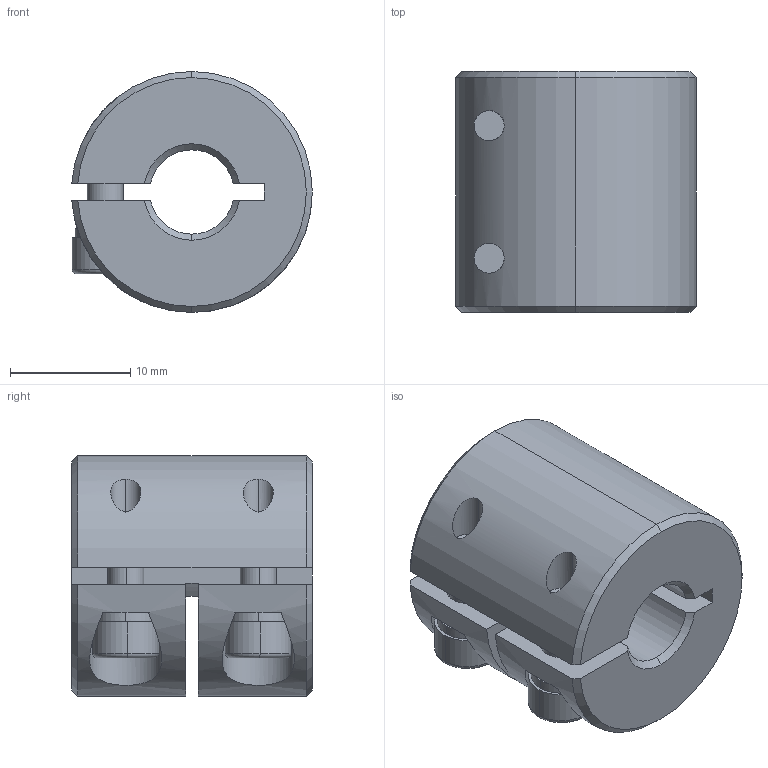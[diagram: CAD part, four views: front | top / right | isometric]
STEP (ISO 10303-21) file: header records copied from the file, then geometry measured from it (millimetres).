
FILE_DESCRIPTION (( 'STEP AP203' ), '1' );
FILE_NAME ('LL-B-D20L20-7-8.STEP', '2021-11-03T05:29:19', ( '' ), ( '' ), 'SwSTEP 2.0', 'SolidWorks 2018', '' );
FILE_SCHEMA (( 'CONFIG_CONTROL_DESIGN' ));
Length unit declared in the file: millimetre
Products named in the file (1): LL-B-D20L20-7-8
Bounding box: 19.98 x 20 x 20 mm (x, y, z)
Volume: 4936.1 mm3; surface area: 3116.1 mm2
Topology: 1 solids, 1 shells, 115 faces, 298 edges, 187 vertices
Faces by surface type: plane 53, cylinder 42, cone 16, torus 4
Entity records: 3764 total; most frequent: CARTESIAN_POINT 831, DIRECTION 625, ORIENTED_EDGE 588, EDGE_CURVE 294, AXIS2_PLACEMENT_3D 241, VERTEX_POINT 187, LINE 143, VECTOR 143
